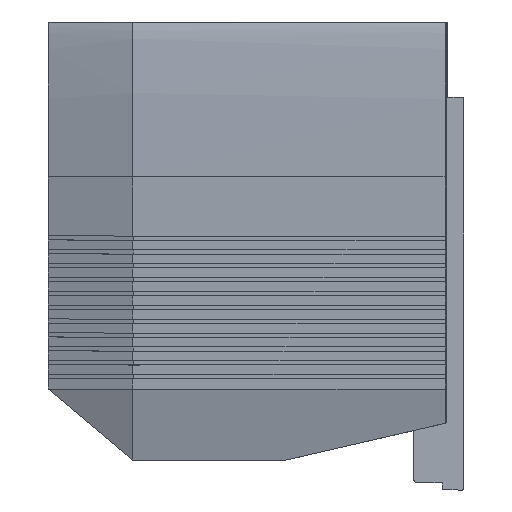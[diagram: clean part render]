
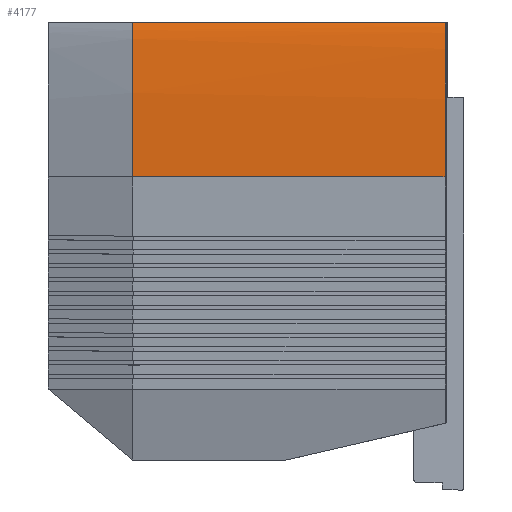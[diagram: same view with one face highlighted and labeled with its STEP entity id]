
A CAD part, left-side view. The second image highlights one B-rep face of the part: STEP entity #4177.
In plain terms, the highlighted free-form (B-spline) face has degree [3, 1] with [9, 2] control points.
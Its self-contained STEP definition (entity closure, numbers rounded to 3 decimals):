
#94 = EDGE_CURVE ( 'NONE', #5697, #5700, #297, .T. ) ;
#103 = EDGE_CURVE ( 'NONE', #5705, #5707, #332, .T. ) ;
#117 = EDGE_CURVE ( 'NONE', #5697, #5707, #4124, .T. ) ;
#297 = LINE ( 'NONE', #306, #4966 ) ;
#306 = CARTESIAN_POINT ( 'NONE',  ( -42.893, -61.39, 60. ) ) ;
#308 = DIRECTION ( 'NONE',  ( 0.084, 0.996, 0. ) ) ;
#332 = LINE ( 'NONE', #333, #4943 ) ;
#333 = CARTESIAN_POINT ( 'NONE',  ( -38.017, 50.623, 4.104 ) ) ;
#334 = DIRECTION ( 'NONE',  ( -0.084, -0.996, 0. ) ) ;
#369 = CARTESIAN_POINT ( 'NONE',  ( -38.589, -5.491, 58.899 ) ) ;
#373 = CARTESIAN_POINT ( 'NONE',  ( -38.4, -5.505, 59.456 ) ) ;
#376 = CARTESIAN_POINT ( 'NONE',  ( -38.158, -5.521, 60. ) ) ;
#377 = CARTESIAN_POINT ( 'NONE',  ( -38.926, -5.468, 57.777 ) ) ;
#378 = CARTESIAN_POINT ( 'NONE',  ( -39.072, -5.458, 57.211 ) ) ;
#379 = CARTESIAN_POINT ( 'NONE',  ( -39.469, -5.431, 55.503 ) ) ;
#380 = CARTESIAN_POINT ( 'NONE',  ( -39.685, -5.416, 54.354 ) ) ;
#381 = CARTESIAN_POINT ( 'NONE',  ( -40.065, -5.39, 52.044 ) ) ;
#382 = CARTESIAN_POINT ( 'NONE',  ( -40.227, -5.378, 50.882 ) ) ;
#383 = CARTESIAN_POINT ( 'NONE',  ( -40.525, -5.358, 48.555 ) ) ;
#384 = CARTESIAN_POINT ( 'NONE',  ( -40.658, -5.349, 47.391 ) ) ;
#385 = CARTESIAN_POINT ( 'NONE',  ( -41.023, -5.324, 43.895 ) ) ;
#386 = CARTESIAN_POINT ( 'NONE',  ( -41.217, -5.31, 41.561 ) ) ;
#387 = CARTESIAN_POINT ( 'NONE',  ( -41.558, -5.287, 36.888 ) ) ;
#388 = CARTESIAN_POINT ( 'NONE',  ( -41.705, -5.276, 34.55 ) ) ;
#389 = CARTESIAN_POINT ( 'NONE',  ( -42.091, -5.25, 27.531 ) ) ;
#390 = CARTESIAN_POINT ( 'NONE',  ( -42.273, -5.237, 22.846 ) ) ;
#391 = CARTESIAN_POINT ( 'NONE',  ( -42.554, -5.218, 13.476 ) ) ;
#392 = CARTESIAN_POINT ( 'NONE',  ( -42.654, -5.211, 8.79 ) ) ;
#393 = CARTESIAN_POINT ( 'NONE',  ( -42.748, -5.204, 4.104 ) ) ;
#1416 = CARTESIAN_POINT ( 'NONE',  ( -28.585, 107.446, 60. ) ) ;
#1424 = FACE_OUTER_BOUND ( 'NONE', #1825, .T. ) ;
#1425 = CARTESIAN_POINT ( 'NONE',  ( -38.216, -6.199, 60. ) ) ;
#1427 = CARTESIAN_POINT ( 'NONE',  ( -38.36, -6.199, 59.678 ) ) ;
#1428 = CARTESIAN_POINT ( 'NONE',  ( -28.729, 107.446, 59.678 ) ) ;
#1429 = CARTESIAN_POINT ( 'NONE',  ( -38.603, -6.199, 59.042 ) ) ;
#1430 = CARTESIAN_POINT ( 'NONE',  ( -28.973, 107.446, 59.042 ) ) ;
#1431 = CARTESIAN_POINT ( 'NONE',  ( -39.026, -6.199, 57.679 ) ) ;
#1432 = CARTESIAN_POINT ( 'NONE',  ( -29.396, 107.446, 57.679 ) ) ;
#1433 = CARTESIAN_POINT ( 'NONE',  ( -39.694, -6.199, 54.887 ) ) ;
#1434 = CARTESIAN_POINT ( 'NONE',  ( -30.064, 107.446, 54.887 ) ) ;
#1435 = CARTESIAN_POINT ( 'NONE',  ( -40.694, -6.199, 48.53 ) ) ;
#1436 = CARTESIAN_POINT ( 'NONE',  ( -31.063, 107.446, 48.53 ) ) ;
#1437 = CARTESIAN_POINT ( 'NONE',  ( -42.234, -6.199, 31.268 ) ) ;
#1438 = CARTESIAN_POINT ( 'NONE',  ( -32.604, 107.446, 31.268 ) ) ;
#1439 = CARTESIAN_POINT ( 'NONE',  ( -42.598, -6.199, 15.736 ) ) ;
#1440 = CARTESIAN_POINT ( 'NONE',  ( -32.967, 107.446, 15.736 ) ) ;
#1441 = CARTESIAN_POINT ( 'NONE',  ( -42.832, -6.199, 4.104 ) ) ;
#1442 = CARTESIAN_POINT ( 'NONE',  ( -33.201, 107.446, 4.104 ) ) ;
#1825 = EDGE_LOOP ( 'NONE', ( #2091, #2092, #2093, #2094 ) ) ;
#2091 = ORIENTED_EDGE ( 'NONE', *, *, #103, .T. ) ;
#2092 = ORIENTED_EDGE ( 'NONE', *, *, #117, .F. ) ;
#2093 = ORIENTED_EDGE ( 'NONE', *, *, #94, .T. ) ;
#2094 = ORIENTED_EDGE ( 'NONE', *, *, #5399, .F. ) ;
#2788 = B_SPLINE_SURFACE_WITH_KNOTS ( 'NONE', 3, 1, ( 
 ( #1425, #1416 ),
 ( #1427, #1428 ),
 ( #1429, #1430 ),
 ( #1431, #1432 ),
 ( #1433, #1434 ),
 ( #1435, #1436 ),
 ( #1437, #1438 ),
 ( #1439, #1440 ),
 ( #1441, #1442 ) ),
 .UNSPECIFIED., .F., .F., .F.,
 ( 4, 1, 1, 1, 1, 1, 4 ),
 ( 2, 2 ),
 ( 0., 0.019, 0.036, 0.076, 0.172, 0.379, 1. ),
 ( 0., 1. ),
 .UNSPECIFIED. ) ;
#3591 = CARTESIAN_POINT ( 'NONE',  ( -33.201, 107.446, 4.104 ) ) ;
#3593 = CARTESIAN_POINT ( 'NONE',  ( -32.967, 107.446, 15.736 ) ) ;
#3594 = CARTESIAN_POINT ( 'NONE',  ( -32.604, 107.446, 31.268 ) ) ;
#3595 = CARTESIAN_POINT ( 'NONE',  ( -31.063, 107.446, 48.53 ) ) ;
#3596 = CARTESIAN_POINT ( 'NONE',  ( -30.064, 107.446, 54.887 ) ) ;
#3597 = CARTESIAN_POINT ( 'NONE',  ( -29.396, 107.446, 57.679 ) ) ;
#3598 = CARTESIAN_POINT ( 'NONE',  ( -28.973, 107.446, 59.042 ) ) ;
#3599 = CARTESIAN_POINT ( 'NONE',  ( -28.729, 107.446, 59.678 ) ) ;
#3600 = CARTESIAN_POINT ( 'NONE',  ( -28.585, 107.446, 60. ) ) ;
#4047 = CARTESIAN_POINT ( 'NONE',  ( -38.158, -5.521, 60. ) ) ;
#4050 = CARTESIAN_POINT ( 'NONE',  ( -28.585, 107.446, 60. ) ) ;
#4055 = CARTESIAN_POINT ( 'NONE',  ( -33.201, 107.446, 4.104 ) ) ;
#4057 = CARTESIAN_POINT ( 'NONE',  ( -42.748, -5.204, 4.104 ) ) ;
#4123 = B_SPLINE_CURVE_WITH_KNOTS ( 'NONE', 3,
 ( #3591, #3593, #3594, #3595, #3596, #3597, #3598, #3599, #3600 ),
 .UNSPECIFIED., .F., .F.,
 ( 4, 1, 1, 1, 1, 1, 4 ),
 ( 0., 0.621, 0.828, 0.924, 0.964, 0.981, 1. ),
 .UNSPECIFIED. ) ;
#4124 = B_SPLINE_CURVE_WITH_KNOTS ( 'NONE', 3,
 ( #376, #373, #369, #377, #378, #379, #380, #381, #382, #383, #384, #385, #386, #387, #388, #389, #390, #391, #392, #393 ),
 .UNSPECIFIED., .F., .F.,
 ( 4, 2, 2, 2, 2, 2, 2, 2, 2, 4 ),
 ( 0., 0.002, 0.004, 0.007, 0.011, 0.014, 0.021, 0.028, 0.042, 0.056 ),
 .UNSPECIFIED. ) ;
#4177 = ADVANCED_FACE ( 'NONE', ( #1424 ), #2788, .T. ) ;
#4943 = VECTOR ( 'NONE', #334, 1000. ) ;
#4966 = VECTOR ( 'NONE', #308, 1000. ) ;
#5399 = EDGE_CURVE ( 'NONE', #5705, #5700, #4123, .T. ) ;
#5697 = VERTEX_POINT ( 'NONE', #4047 ) ;
#5700 = VERTEX_POINT ( 'NONE', #4050 ) ;
#5705 = VERTEX_POINT ( 'NONE', #4055 ) ;
#5707 = VERTEX_POINT ( 'NONE', #4057 ) ;
